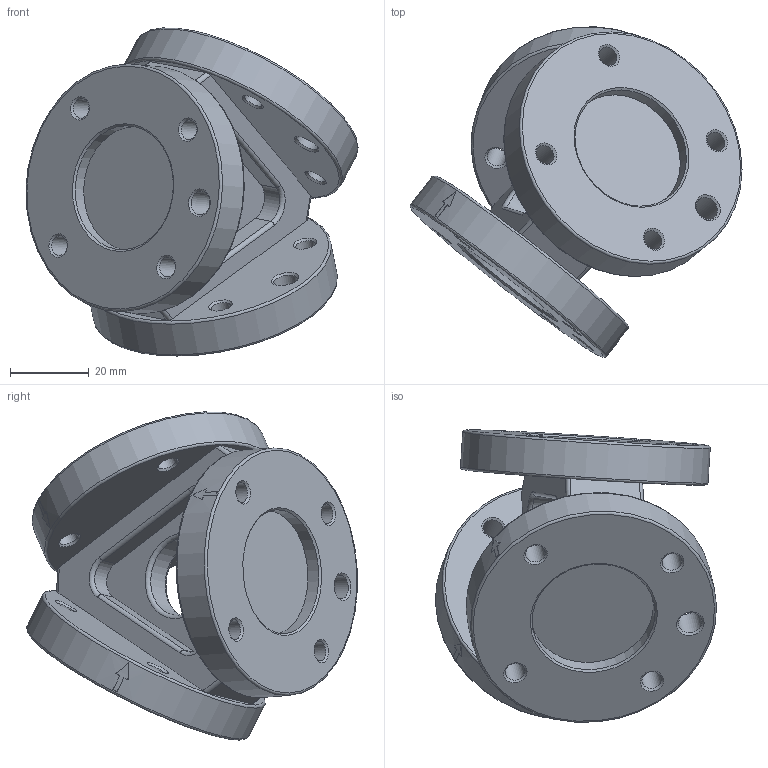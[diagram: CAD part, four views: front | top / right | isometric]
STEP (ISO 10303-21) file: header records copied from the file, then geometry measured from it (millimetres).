
FILE_DESCRIPTION(/* description */ (''),/* implementation_level */ '2;1');
FILE_NAME(/* name */ 'T:\G-YA063-S4.stp',/* time_stamp */ '2020-05-29T17:07:03+02:00',/* author */ ('hcanti'),/* organization */ (''),/* preprocessor_version */ 'ST-DEVELOPER v17',/* originating_system */ 'Autodesk Inventor 2018',/* authorisation */ '');
FILE_SCHEMA (('AUTOMOTIVE_DESIGN { 1 0 10303 214 3 1 1 }'));
Length unit declared in the file: millimetre
Products named in the file (3): G-YA063-S4; YA063-S0-1; YA063-S0-2
Assembly tree (4 placements, depth 2):
  G-YA063-S4
    YA063-S0-1
    YA063-S0-2  x3
Bounding box: 84.32 x 83.93 x 83.33 mm (x, y, z)
Volume: 106956.4 mm3; surface area: 36241.4 mm2
Topology: 4 solids, 4 shells, 136 faces, 333 edges, 216 vertices
Faces by surface type: plane 46, cylinder 43, cone 33, torus 14
Full cylindrical faces by diameter (mm): 5 x12, 6.02 x3, 20 x1, 31.52 x3, 63 x3
Entity records: 2380 total; most frequent: DIRECTION 440, CARTESIAN_POINT 378, ORIENTED_EDGE 360, EDGE_CURVE 180, AXIS2_PLACEMENT_3D 178, VERTEX_POINT 114, EDGE_LOOP 90, LINE 84
